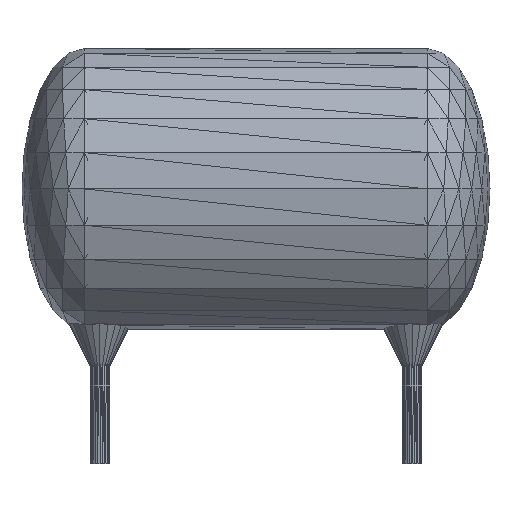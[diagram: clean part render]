
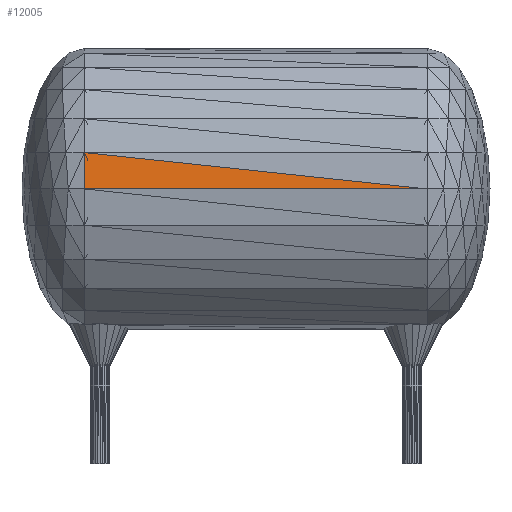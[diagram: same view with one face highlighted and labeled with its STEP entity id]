
A CAD part, front view. The second image highlights one B-rep face of the part: STEP entity #12005.
In plain terms, the highlighted planar face has unit normal (0, 0.995, -0.105).
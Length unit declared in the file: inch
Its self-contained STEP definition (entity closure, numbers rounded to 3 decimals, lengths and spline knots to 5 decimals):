
#11632=CARTESIAN_POINT('',(0.27489,-0.18007,0.3399));
#11633=VERTEX_POINT('',#11632);
#11808=CARTESIAN_POINT('',(-0.27516,-0.18007,0.34002));
#11809=VERTEX_POINT('',#11808);
#11843=CARTESIAN_POINT('',(0.275,-0.18007,0.3399));
#11844=DIRECTION('',(-1.,0.,0.));
#11845=VECTOR('',#11844,0.55);
#11846=LINE('',#11843,#11845);
#11847=EDGE_CURVE('',#11633,#11809,#11846,.T.);
#11924=CARTESIAN_POINT('',(-0.27511,-0.17394,0.39826));
#11925=VERTEX_POINT('',#11924);
#11959=CARTESIAN_POINT('',(0.275,-0.18007,0.3399));
#11960=DIRECTION('',(-0.994,0.011,0.105));
#11961=VECTOR('',#11960,0.55311);
#11962=LINE('',#11959,#11961);
#11963=EDGE_CURVE('',#11633,#11925,#11962,.T.);
#11985=CARTESIAN_POINT('',(-0.275,-0.18007,0.34002));
#11986=DIRECTION('',(0.,0.105,0.995));
#11987=VECTOR('',#11986,0.05855);
#11988=LINE('',#11985,#11987);
#11989=EDGE_CURVE('',#11809,#11925,#11988,.T.);
#11995=CARTESIAN_POINT('',(-0.27533,-0.18007,0.34002));
#11996=DIRECTION('',(0.,-0.995,0.105));
#11997=DIRECTION('',(1.,0.,0.));
#11998=AXIS2_PLACEMENT_3D('',#11995,#11996,#11997);
#11999=PLANE('',#11998);
#12000=ORIENTED_EDGE('',*,*,#11989,.T.);
#12001=ORIENTED_EDGE('',*,*,#11963,.F.);
#12002=ORIENTED_EDGE('',*,*,#11847,.T.);
#12003=EDGE_LOOP('',(#12000,#12001,#12002));
#12004=FACE_BOUND('',#12003,.T.);
#12005=ADVANCED_FACE('',(#12004),#11999,.F.);
